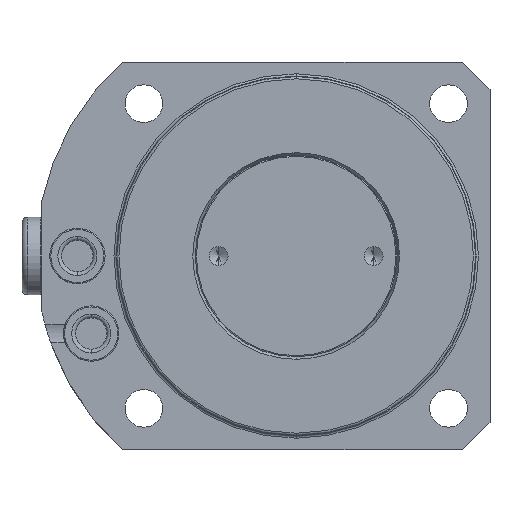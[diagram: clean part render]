
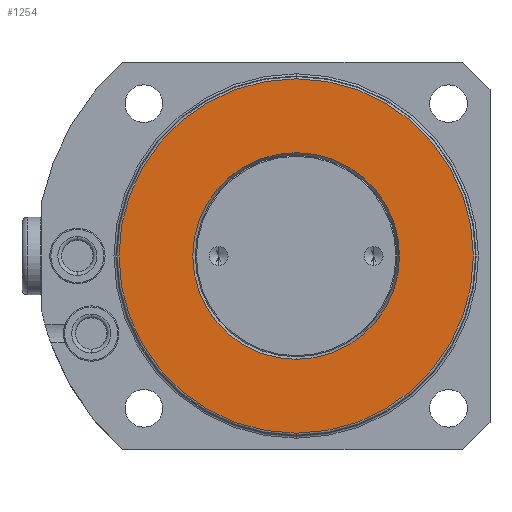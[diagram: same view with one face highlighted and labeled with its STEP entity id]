
A CAD part, front view. The second image highlights one B-rep face of the part: STEP entity #1254.
In plain terms, the highlighted planar face has unit normal (0, -1, 0).
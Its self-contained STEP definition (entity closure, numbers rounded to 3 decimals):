
#199=PLANE('',#4775);
#284=FACE_BOUND('',#1787,.T.);
#285=FACE_BOUND('',#1788,.T.);
#1254=ADVANCED_FACE('',(#284,#285),#199,.T.);
#1787=EDGE_LOOP('',(#2607,#2608));
#1788=EDGE_LOOP('',(#2609,#2610));
#2607=ORIENTED_EDGE('',*,*,#3822,.T.);
#2608=ORIENTED_EDGE('',*,*,#3881,.T.);
#2609=ORIENTED_EDGE('',*,*,#3880,.F.);
#2610=ORIENTED_EDGE('',*,*,#3826,.F.);
#3352=VERTEX_POINT('',#7687);
#3353=VERTEX_POINT('',#7689);
#3356=VERTEX_POINT('',#7696);
#3357=VERTEX_POINT('',#7698);
#3822=EDGE_CURVE('',#3353,#3352,#4263,.T.);
#3826=EDGE_CURVE('',#3356,#3357,#4266,.T.);
#3880=EDGE_CURVE('',#3357,#3356,#4290,.T.);
#3881=EDGE_CURVE('',#3352,#3353,#4291,.T.);
#4263=CIRCLE('',#4733,32.);
#4266=CIRCLE('',#4737,18.662);
#4290=CIRCLE('',#4772,18.662);
#4291=CIRCLE('',#4774,32.);
#4733=AXIS2_PLACEMENT_3D('',#7688,#5795,#5796);
#4737=AXIS2_PLACEMENT_3D('',#7697,#5804,#5805);
#4772=AXIS2_PLACEMENT_3D('',#7854,#5891,#5892);
#4774=AXIS2_PLACEMENT_3D('',#7856,#5895,#5896);
#4775=AXIS2_PLACEMENT_3D('',#7857,#5897,#5898);
#5795=DIRECTION('',(0.,-1.,0.));
#5796=DIRECTION('',(0.,0.,-1.));
#5804=DIRECTION('',(0.,-1.,0.));
#5805=DIRECTION('',(0.,0.,-1.));
#5891=DIRECTION('',(0.,-1.,0.));
#5892=DIRECTION('',(0.,0.,-1.));
#5895=DIRECTION('',(0.,-1.,0.));
#5896=DIRECTION('',(0.,0.,-1.));
#5897=DIRECTION('',(0.,-1.,0.));
#5898=DIRECTION('',(0.,0.,1.));
#7687=CARTESIAN_POINT('',(0.,1.705,32.));
#7688=CARTESIAN_POINT('',(0.,1.705,0.));
#7689=CARTESIAN_POINT('',(0.,1.705,-32.));
#7696=CARTESIAN_POINT('',(0.,1.705,18.662));
#7697=CARTESIAN_POINT('',(0.,1.705,0.));
#7698=CARTESIAN_POINT('',(0.,1.705,-18.662));
#7854=CARTESIAN_POINT('',(0.,1.705,0.));
#7856=CARTESIAN_POINT('',(0.,1.705,0.));
#7857=CARTESIAN_POINT('',(0.,1.705,0.));
